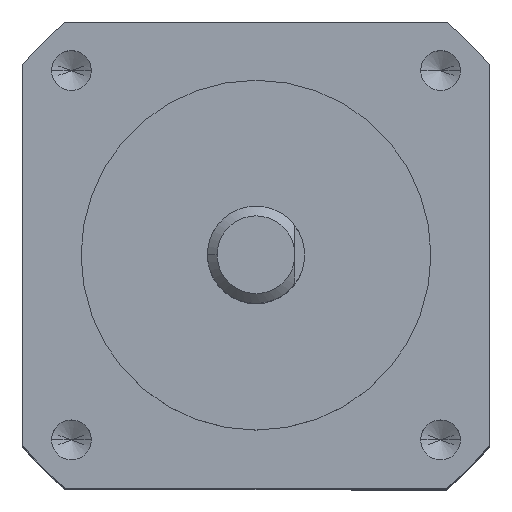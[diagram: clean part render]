
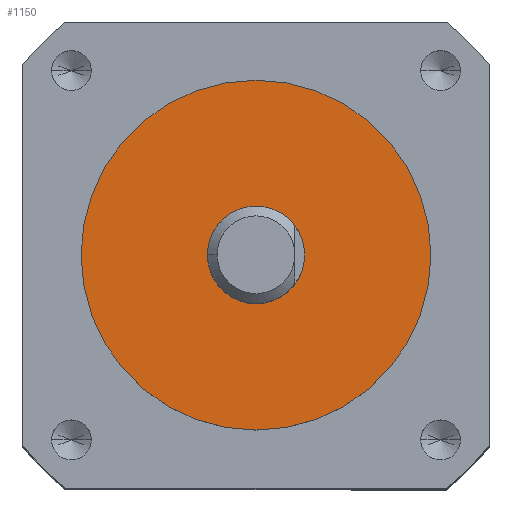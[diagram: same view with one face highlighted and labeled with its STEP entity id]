
A CAD part, top view. The second image highlights one B-rep face of the part: STEP entity #1150.
In plain terms, the highlighted planar face has unit normal (0, 0, 1).
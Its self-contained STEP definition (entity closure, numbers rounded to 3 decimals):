
#111 = AXIS2_PLACEMENT_3D ( 'NONE', #1722, #1709, #1697 ) ;
#181 = EDGE_CURVE ( 'NONE', #3044, #2469, #404, .T. ) ;
#256 = CIRCLE ( 'NONE', #942, 2.5 ) ;
#334 = EDGE_LOOP ( 'NONE', ( #1407, #2165 ) ) ;
#404 = CIRCLE ( 'NONE', #2589, 2.5 ) ;
#419 = EDGE_LOOP ( 'NONE', ( #2343, #3147 ) ) ;
#444 = VERTEX_POINT ( 'NONE', #1321 ) ;
#492 = DIRECTION ( 'NONE',  ( 1., 0., 0. ) ) ;
#504 = DIRECTION ( 'NONE',  ( 0., 0., -1. ) ) ;
#514 = CARTESIAN_POINT ( 'NONE',  ( 0., 0., 1.5 ) ) ;
#631 = CARTESIAN_POINT ( 'NONE',  ( -9., 0., 1.5 ) ) ;
#632 = FACE_OUTER_BOUND ( 'NONE', #419, .T. ) ;
#715 = CARTESIAN_POINT ( 'NONE',  ( 0., 0., 1.5 ) ) ;
#722 = FACE_BOUND ( 'NONE', #334, .T. ) ;
#790 = AXIS2_PLACEMENT_3D ( 'NONE', #715, #2458, #961 ) ;
#827 = CIRCLE ( 'NONE', #111, 9. ) ;
#904 = EDGE_CURVE ( 'NONE', #2309, #444, #827, .T. ) ;
#942 = AXIS2_PLACEMENT_3D ( 'NONE', #1461, #3238, #1720 ) ;
#961 = DIRECTION ( 'NONE',  ( 1., 0., 0. ) ) ;
#1135 = DIRECTION ( 'NONE',  ( 1., 0., 0. ) ) ;
#1146 = DIRECTION ( 'NONE',  ( 0., 0., 1. ) ) ;
#1150 = ADVANCED_FACE ( 'NONE', ( #632, #722 ), #2895, .T. ) ;
#1321 = CARTESIAN_POINT ( 'NONE',  ( 9., 0., 1.5 ) ) ;
#1407 = ORIENTED_EDGE ( 'NONE', *, *, #2488, .T. ) ;
#1461 = CARTESIAN_POINT ( 'NONE',  ( 0., 0., 1.5 ) ) ;
#1697 = DIRECTION ( 'NONE',  ( 1., 0., 0. ) ) ;
#1709 = DIRECTION ( 'NONE',  ( 0., 0., 1. ) ) ;
#1720 = DIRECTION ( 'NONE',  ( 1., 0., 0. ) ) ;
#1722 = CARTESIAN_POINT ( 'NONE',  ( 0., 0., 1.5 ) ) ;
#1963 = CARTESIAN_POINT ( 'NONE',  ( -2.5, 0., 1.5 ) ) ;
#2089 = EDGE_CURVE ( 'NONE', #444, #2309, #2788, .T. ) ;
#2165 = ORIENTED_EDGE ( 'NONE', *, *, #181, .T. ) ;
#2267 = CARTESIAN_POINT ( 'NONE',  ( 2.5, 0., 1.5 ) ) ;
#2309 = VERTEX_POINT ( 'NONE', #631 ) ;
#2343 = ORIENTED_EDGE ( 'NONE', *, *, #904, .T. ) ;
#2458 = DIRECTION ( 'NONE',  ( 0., 0., 1. ) ) ;
#2469 = VERTEX_POINT ( 'NONE', #1963 ) ;
#2488 = EDGE_CURVE ( 'NONE', #2469, #3044, #256, .T. ) ;
#2589 = AXIS2_PLACEMENT_3D ( 'NONE', #514, #504, #492 ) ;
#2610 = AXIS2_PLACEMENT_3D ( 'NONE', #2628, #1146, #1135 ) ;
#2628 = CARTESIAN_POINT ( 'NONE',  ( 0., 0., 1.5 ) ) ;
#2788 = CIRCLE ( 'NONE', #790, 9. ) ;
#2895 = PLANE ( 'NONE',  #2610 ) ;
#3044 = VERTEX_POINT ( 'NONE', #2267 ) ;
#3147 = ORIENTED_EDGE ( 'NONE', *, *, #2089, .T. ) ;
#3238 = DIRECTION ( 'NONE',  ( 0., 0., -1. ) ) ;
